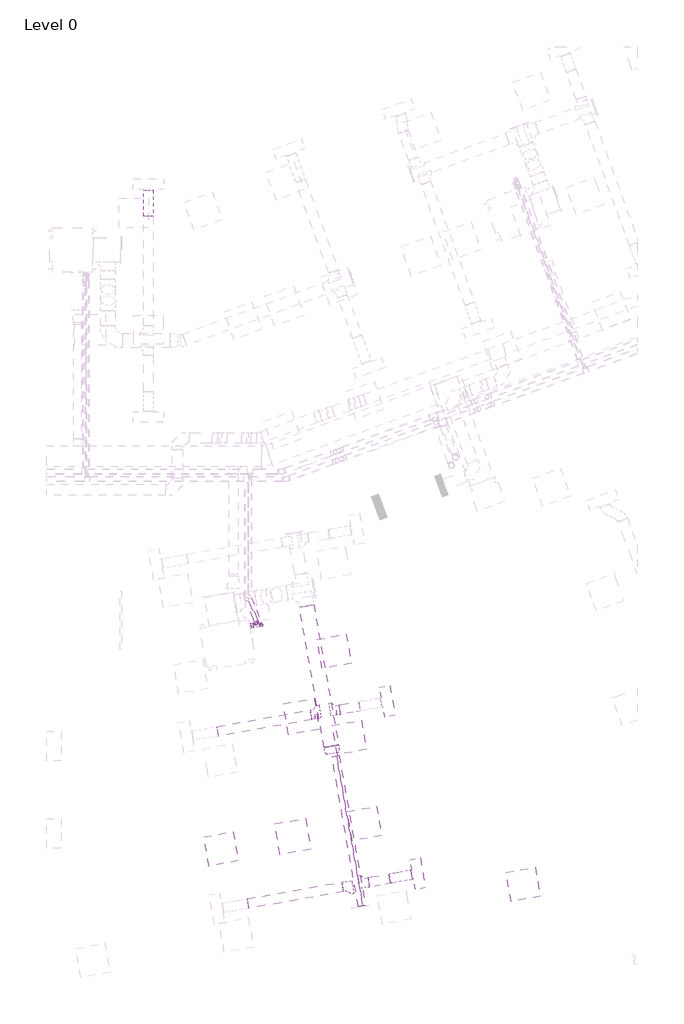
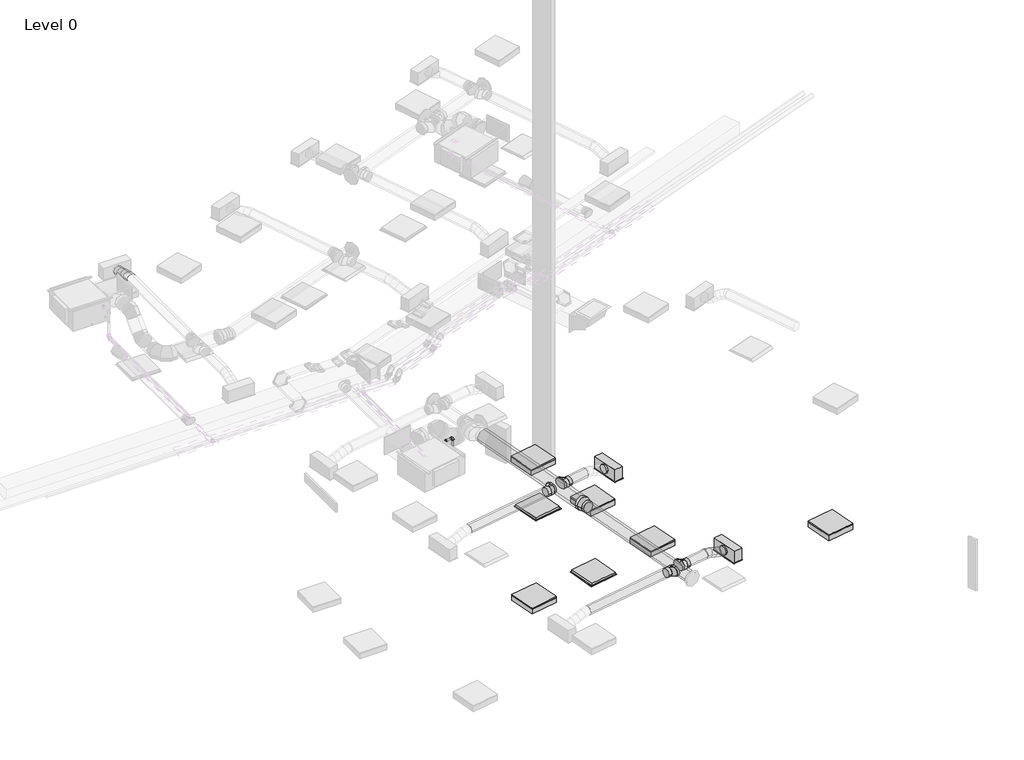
# One storey, part 18 of 34: 8 duct segments, 6 pipe fittings, 6 pipe segments, 5 duct fittings, 5 light fixtures, 4 air terminals.
"""IFC4 building model written with IfcOpenShell, lengths in millimetres."""

from ifc_helpers import new_model, si_unit, point, frame, frame_2d, origin, place, context, project, spatial, circle_curve, ellipse_curve, trimmed, segment, composite_curve, outline, extrude, transform, mapped, element, save
from ifc_brep_helpers import plane_surface, cylinder_surface, advanced_brep
from components import return_grille_rectangular_hosted_standard_7b12617c, supply_diffuser_with_plenum_linear_slot_hosted_7a86b773, dw144_round_shoe_branch_slip_joint1_standard_2_15a2edd8, dw144_round_shoe_branch_slip_joint1_standard_2_3a899113, dw144_round_taper_slip_joint_standard_7b2c0993, troffer_light_2x2_parabolic_2_x2_2_lamp_120v_6a063ff3, elbow_threaded_gmi_standard_b4aa7741, socket_reducing_threaded_gmi_standard_7a3748ab

model = new_model("IFC4")

# Units and contexts
model_context = context("Model", 3, world=origin())
ifc_project = project(units=[si_unit("LENGTHUNIT", "METRE", prefix="MILLI")], contexts=[model_context])

# Site, building, storey
site = spatial("IfcSite", under=ifc_project)
building = spatial("IfcBuilding", under=site)
storey = spatial("IfcBuildingStorey", under=building, Name="Level 0", Elevation=0.0)

# Air terminals
placement = place(None, origin())
return_grille_rectangular_hosted_standard_shape = return_grille_rectangular_hosted_standard_7b12617c(model_context)
element("IfcAirTerminal", 1, ObjectType="Return Grille - Rectangular - Hosted : Standard", at=placement, inside=storey, context=model_context, shape_type="MappedRepresentation", body=[
    mapped(return_grille_rectangular_hosted_standard_shape, transform((33736.3792363, 1334.082517, 2800.0), x_axis=(0.9848077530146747, 0.17364817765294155, 0.0), y_axis=(0.17364817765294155, -0.9848077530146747, 0.0), z_axis=(0.0, 0.0, -1.0))),
])
element("IfcAirTerminal", 2, ObjectType="Return Grille - Rectangular - Hosted : Standard", at=placement, inside=storey, context=model_context, shape_type="MappedRepresentation", body=[
    mapped(return_grille_rectangular_hosted_standard_shape, transform((33910.5082617, 3801.8100308, 2800.0), x_axis=(0.9848077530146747, 0.17364817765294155, 0.0), y_axis=(0.17364817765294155, -0.9848077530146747, 0.0), z_axis=(0.0, 0.0, -1.0))),
])
supply_diffuser_with_plenum_linear_slot_hosted_shape = supply_diffuser_with_plenum_linear_slot_hosted_7a86b773(model_context)
element("IfcAirTerminal", 3, ObjectType="Supply Diffuser with Plenum - Linear Slot - Hosted : 24\" x 8\"-200 In Inlet  4-Slot", at=placement, inside=storey, context=model_context, shape_type="MappedRepresentation", body=[
    mapped(supply_diffuser_with_plenum_linear_slot_hosted_shape, transform((35683.1622171, 4114.3767506, 2800.0), x_axis=(0.1736481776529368, -0.9848077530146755, 0.0), y_axis=(-0.9848077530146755, -0.1736481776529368, 0.0), z_axis=(0.0, 0.0, -1.0))),
])
element("IfcAirTerminal", 4, ObjectType="Supply Diffuser with Plenum - Linear Slot - Hosted : 24\" x 8\"-200 In Inlet  4-Slot", at=placement, inside=storey, context=model_context, shape_type="MappedRepresentation", body=[
    mapped(supply_diffuser_with_plenum_linear_slot_hosted_shape, transform((36308.2956567, 569.0688397, 2800.0), x_axis=(0.1736481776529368, -0.9848077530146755, 0.0), y_axis=(-0.9848077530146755, -0.1736481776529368, 0.0), z_axis=(0.0, 0.0, -1.0))),
])

# Duct fittings
dw144_round_shoe_branch_slip_joint1_standard_2_shape = dw144_round_shoe_branch_slip_joint1_standard_2_15a2edd8(model_context)
element("IfcDuctFitting", 5, ObjectType="DW144 Round Shoe Branch - Slip Joint1 : Standard 2", at=placement, inside=storey, context=model_context, shape_type="MappedRepresentation", body=[
    mapped(dw144_round_shoe_branch_slip_joint1_standard_2_shape, transform((35154.4321897, 365.6115785, 3072.2088531), x_axis=(0.9848077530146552, 0.17364817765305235, 0.0), y_axis=(0.17364817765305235, -0.9848077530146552, 0.0), z_axis=(0.0, 0.0, -1.0))),
])
element("IfcDuctFitting", 6, ObjectType="DW144 Round Shoe Branch - Slip Joint1 : Standard 2", at=placement, inside=storey, context=model_context, shape_type="MappedRepresentation", body=[
    mapped(dw144_round_shoe_branch_slip_joint1_standard_2_shape, transform((34908.2302515, 322.1995341, 3072.2088531), x_axis=(-0.9848077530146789, -0.17364817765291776, 0.0), y_axis=(-0.17364817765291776, 0.9848077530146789, 0.0), z_axis=(0.0, 0.0, -1.0))),
])
dw144_round_shoe_branch_slip_joint1_standard_2_2_shape = dw144_round_shoe_branch_slip_joint1_standard_2_3a899113(model_context)
element("IfcDuctFitting", 7, ObjectType="DW144 Round Shoe Branch - Slip Joint1 : Standard 2", at=placement, inside=storey, context=model_context, shape_type="MappedRepresentation", body=[
    mapped(dw144_round_shoe_branch_slip_joint1_standard_2_2_shape, transform((34258.4766181, 3863.1662405, 3072.2088531), x_axis=(-0.9848077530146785, -0.17364817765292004, 0.0), y_axis=(0.17364817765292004, -0.9848077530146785, 0.0), z_axis=(0.0, 0.0, 1.0))),
])
element("IfcDuctFitting", 8, ObjectType="DW144 Round Shoe Branch - Slip Joint1 : Standard 2", at=placement, inside=storey, context=model_context, shape_type="MappedRepresentation", body=[
    mapped(dw144_round_shoe_branch_slip_joint1_standard_2_2_shape, transform((34553.918944, 3915.2606938, 3072.2088531), x_axis=(0.9848077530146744, 0.17364817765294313, 0.0), y_axis=(0.17364817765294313, -0.9848077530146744, 0.0), z_axis=(0.0, 0.0, -1.0))),
])
dw144_round_taper_slip_joint_standard_shape = dw144_round_taper_slip_joint_standard_7b2c0993(model_context)
element("IfcDuctFitting", 9, ObjectType="DW144 Round Taper - Slip Joint : Standard", at=placement, inside=storey, context=model_context, shape_type="MappedRepresentation", body=[
    mapped(dw144_round_taper_slip_joint_standard_shape, transform((34529.2296476, 3191.465079, 3072.2088531), x_axis=(0.17364817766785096, -0.9848077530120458, 0.0), y_axis=(0.9848077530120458, 0.17364817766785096, 0.0), z_axis=(0.0, 0.0, 1.0))),
])

# Duct segments
element("IfcDuctSegment", 10, ObjectType="DW144 Segmented Bend / Shoe Branch", at=placement, inside=storey, context=model_context, shape_type="SweptSolid", body=[
    extrude(outline(composite_curve([segment(trimmed(circle_curve(frame_2d((0.0, -125.0)), 125.0), [point((-125.0, -125.0))], [point((0.0, 0.0))], False, "CARTESIAN"), True, "CONTINUOUS"), segment(trimmed(circle_curve(frame_2d((0.0, -125.0)), 125.0), [point((0.0, 0.0))], [point((125.0, -125.0))], False, "CARTESIAN"), True, "CONTINUOUS"), segment(trimmed(circle_curve(frame_2d((0.0, -125.0)), 125.0), [point((125.0, -125.0))], [point((0.0, -250.0))], False, "CARTESIAN"), True, "CONTINUOUS"), segment(trimmed(circle_curve(frame_2d((0.0, -125.0)), 125.0), [point((0.0, -250.0))], [point((-125.0, -125.0))], False, "CARTESIAN"), True, "CONTINUOUS")], self_intersect=False)), frame((35110.8297064, -106.9527609, 2947.2088531), z_axis=(-0.17364817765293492, 0.9848077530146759, 0.0), x_axis=(0.9848077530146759, 0.17364817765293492, 0.0)), (0.0, 0.0, 1.0), 3135.9999815),
])
element("IfcDuctSegment", 11, ObjectType="DW144 Segmented Bend / Shoe Branch", at=placement, inside=storey, context=model_context, shape_type="SweptSolid", body=[
    extrude(outline(composite_curve([segment(trimmed(circle_curve(frame_2d((0.0, 100.0)), 100.0), [point((100.0, 100.0))], [point((0.0, 0.0))], False, "CARTESIAN"), True, "CONTINUOUS"), segment(trimmed(circle_curve(frame_2d((0.0, 100.0)), 100.0), [point((0.0, 0.0))], [point((-100.0, 100.0))], False, "CARTESIAN"), True, "CONTINUOUS"), segment(trimmed(circle_curve(frame_2d((0.0, 100.0)), 100.0), [point((-100.0, 100.0))], [point((0.0, 200.0))], False, "CARTESIAN"), True, "CONTINUOUS"), segment(trimmed(circle_curve(frame_2d((0.0, 100.0)), 100.0), [point((0.0, 200.0))], [point((100.0, 100.0))], False, "CARTESIAN"), True, "CONTINUOUS")], self_intersect=False)), frame((34701.640107, 3941.3079204, 3172.2088531), z_axis=(0.9848077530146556, 0.1736481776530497, 0.0), x_axis=(0.1736481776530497, -0.9848077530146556, 0.0)), (0.0, 0.0, 1.0), 410.0),
])
element("IfcDuctSegment", 12, ObjectType="DW144 Segmented Bend / Shoe Branch", at=placement, inside=storey, context=model_context, shape_type="SweptSolid", body=[
    extrude(outline(composite_curve([segment(trimmed(circle_curve(frame_2d((0.0, -100.0)), 100.0), [point((-100.0, -100.0))], [point((0.0, 0.0))], False, "CARTESIAN"), True, "CONTINUOUS"), segment(trimmed(circle_curve(frame_2d((0.0, -100.0)), 100.0), [point((0.0, 0.0))], [point((100.0, -100.0))], False, "CARTESIAN"), True, "CONTINUOUS"), segment(trimmed(circle_curve(frame_2d((0.0, -100.0)), 100.0), [point((100.0, -100.0))], [point((0.0, -200.0))], False, "CARTESIAN"), True, "CONTINUOUS"), segment(trimmed(circle_curve(frame_2d((0.0, -100.0)), 100.0), [point((0.0, -200.0))], [point((-100.0, -100.0))], False, "CARTESIAN"), True, "CONTINUOUS")], self_intersect=False)), frame((32190.3803368, 3498.5050674, 2972.2088531), z_axis=(0.9848077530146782, 0.17364817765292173, 0.0), x_axis=(0.17364817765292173, -0.9848077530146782, 0.0)), (0.0, 0.0, 1.0), 1950.0),
])
element("IfcDuctSegment", 13, ObjectType="DW144 Segmented Bend / Shoe Branch", at=placement, inside=storey, context=model_context, shape_type="SweptSolid", body=[
    extrude(outline(composite_curve([segment(trimmed(circle_curve(frame_2d((0.0, -150.0)), 150.0), [point((-150.0, -150.0))], [point((0.0, 0.0))], False, "CARTESIAN"), True, "CONTINUOUS"), segment(trimmed(circle_curve(frame_2d((0.0, -150.0)), 150.0), [point((0.0, 0.0))], [point((150.0, -150.0))], False, "CARTESIAN"), True, "CONTINUOUS"), segment(trimmed(circle_curve(frame_2d((0.0, -150.0)), 150.0), [point((150.0, -150.0))], [point((0.0, -300.0))], False, "CARTESIAN"), True, "CONTINUOUS"), segment(trimmed(circle_curve(frame_2d((0.0, -150.0)), 150.0), [point((0.0, -300.0))], [point((-150.0, -150.0))], False, "CARTESIAN"), True, "CONTINUOUS")], self_intersect=False)), frame((34529.2296476, 3191.465079, 2922.2088531), z_axis=(-0.17364817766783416, 0.9848077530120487, 0.0), x_axis=(0.9848077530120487, 0.17364817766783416, 0.0)), (0.0, 0.0, 1.0), 2934.6959585),
])
element("IfcDuctSegment", 14, ObjectType="DW144 Segmented Bend / Shoe Branch", at=placement, inside=storey, context=model_context, shape_type="SweptSolid", body=[
    extrude(outline(composite_curve([segment(trimmed(circle_curve(frame_2d((0.0, -100.0)), 100.0), [point((-100.0, -100.0))], [point((0.0, 0.0))], False, "CARTESIAN"), True, "CONTINUOUS"), segment(trimmed(circle_curve(frame_2d((0.0, -100.0)), 100.0), [point((0.0, 0.0))], [point((100.0, -100.0))], False, "CARTESIAN"), True, "CONTINUOUS"), segment(trimmed(circle_curve(frame_2d((0.0, -100.0)), 100.0), [point((100.0, -100.0))], [point((0.0, -200.0))], False, "CARTESIAN"), True, "CONTINUOUS"), segment(trimmed(circle_curve(frame_2d((0.0, -100.0)), 100.0), [point((0.0, -200.0))], [point((-100.0, -100.0))], False, "CARTESIAN"), True, "CONTINUOUS")], self_intersect=False)), frame((35302.1533527, 391.6588051, 2972.2088531), z_axis=(0.9848077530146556, 0.17364817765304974, 0.0), x_axis=(0.17364817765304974, -0.9848077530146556, 0.0)), (0.0, 0.0, 1.0), 435.0),
])
element("IfcDuctSegment", 15, ObjectType="DW144 Segmented Bend / Shoe Branch", at=placement, inside=storey, context=model_context, shape_type="SweptSolid", body=[
    extrude(outline(composite_curve([segment(trimmed(circle_curve(frame_2d((0.0, 100.0)), 100.0), [point((100.0, 100.0))], [point((0.0, 0.0))], False, "CARTESIAN"), True, "CONTINUOUS"), segment(trimmed(circle_curve(frame_2d((0.0, 100.0)), 100.0), [point((0.0, 0.0))], [point((-100.0, 100.0))], False, "CARTESIAN"), True, "CONTINUOUS"), segment(trimmed(circle_curve(frame_2d((0.0, 100.0)), 100.0), [point((-100.0, 100.0))], [point((0.0, 200.0))], False, "CARTESIAN"), True, "CONTINUOUS"), segment(trimmed(circle_curve(frame_2d((0.0, 100.0)), 100.0), [point((0.0, 200.0))], [point((100.0, 100.0))], False, "CARTESIAN"), True, "CONTINUOUS")], self_intersect=False)), frame((32815.5137763, -46.8028435, 3172.2088531), z_axis=(0.9848077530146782, 0.17364817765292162, 0.0), x_axis=(0.17364817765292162, -0.9848077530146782, 0.0)), (0.0, 0.0, 1.0), 1975.0),
])
element("IfcDuctSegment", 16, ObjectType="Flex - Round", at=placement, inside=storey, context=model_context, shape_type="AdvancedBrep", body=[
    advanced_brep(
    [(30662.2000027, 14100.4916128, 3072.2088531), (30762.2000027, 14100.4916128, 2972.2088531), (30862.2000027, 14100.4916128, 3072.2088531), (30762.2000027, 14100.4916128, 3172.2088531), (30662.2000027, 14113.9893992, 3072.2088531), (30762.2000027, 14106.4651408, 2972.2088531), (30862.2000027, 14113.9893992, 3072.2088531), (30762.2000027, 14121.5136576, 3172.2088531), (30662.2000027, 14636.2000004, 2954.4), (30762.2000027, 14636.2000004, 3054.4), (30862.2000027, 14636.2000004, 2954.4), (30762.2000027, 14636.2000004, 2854.4), (30662.2000027, 14235.618791, 3053.8012198), (30762.2000027, 14213.4273542, 2956.0209797), (30862.2000027, 14235.618791, 3053.8012198), (30762.2000027, 14257.8102277, 3151.58146), (30662.2000027, 14368.3458066, 3013.3044266), (30762.2000027, 14339.1626335, 2917.657459), (30862.2000027, 14368.3458066, 3013.3044266), (30762.2000027, 14397.5289797, 3108.9513941), (30662.2000027, 14501.0728222, 2972.8076333), (30762.2000027, 14478.8813855, 2875.0273932), (30862.2000027, 14501.0728222, 2972.8076333), (30762.2000027, 14523.264259, 3070.5878734), (30662.2000027, 14622.702214, 2954.4), (30762.2000027, 14615.1779556, 2854.4), (30862.2000027, 14622.702214, 2954.4), (30762.2000027, 14630.2264724, 3054.4)],
    [
        (0, 1, circle_curve(frame((30762.2000027, 14100.4916128, 3072.2088531), z_axis=(0.0, -1.0, 0.0), x_axis=(-1.0, 0.0, 0.0)), 100.0)),
        (1, 2, circle_curve(frame((30762.2000027, 14100.4916128, 3072.2088531), z_axis=(0.0, -1.0, 0.0), x_axis=(-1.0, 0.0, 0.0)), 100.0)),
        (2, 3, circle_curve(frame((30762.2000027, 14100.4916128, 3072.2088531), z_axis=(0.0, -1.0, 0.0), x_axis=(-1.0, 0.0, 0.0)), 100.0)),
        (3, 0, circle_curve(frame((30762.2000027, 14100.4916128, 3072.2088531), z_axis=(0.0, -1.0, 0.0), x_axis=(-1.0, 0.0, 0.0)), 100.0)),
        (0, 4),
        (4, 5, ellipse_curve(frame((30762.2000027, 14113.9893992, 3072.2088531), z_axis=(0.0, -0.9971812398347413, 0.07503049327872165), x_axis=(0.0, -0.07503049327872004, -0.9971812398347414)), 100.2826728, 100.0)),
        (5, 1),
        (5, 6, ellipse_curve(frame((30762.2000027, 14113.9893992, 3072.2088531), z_axis=(0.0, -0.9971812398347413, 0.07503049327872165), x_axis=(0.0, -0.07503049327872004, -0.9971812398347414)), 100.2826728, 100.0)),
        (6, 2),
        (6, 7, ellipse_curve(frame((30762.2000027, 14113.9893992, 3072.2088531), z_axis=(0.0, -0.9971812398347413, 0.07503049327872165), x_axis=(0.0, -0.07503049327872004, -0.9971812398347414)), 100.2826728, 100.0)),
        (7, 3),
        (7, 4, ellipse_curve(frame((30762.2000027, 14113.9893992, 3072.2088531), z_axis=(0.0, -0.9971812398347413, 0.07503049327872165), x_axis=(0.0, -0.07503049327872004, -0.9971812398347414)), 100.2826728, 100.0)),
        (8, 9, circle_curve(frame((30762.2000027, 14636.2000004, 2954.4), z_axis=(0.0, 1.0, 0.0), x_axis=(-1.0, 0.0, 0.0)), 100.0)),
        (9, 10, circle_curve(frame((30762.2000027, 14636.2000004, 2954.4), z_axis=(0.0, 1.0, 0.0), x_axis=(-1.0, 0.0, 0.0)), 100.0)),
        (10, 11, circle_curve(frame((30762.2000027, 14636.2000004, 2954.4), z_axis=(0.0, 1.0, 0.0), x_axis=(-1.0, 0.0, 0.0)), 100.0)),
        (11, 8, circle_curve(frame((30762.2000027, 14636.2000004, 2954.4), z_axis=(0.0, 1.0, 0.0), x_axis=(-1.0, 0.0, 0.0)), 100.0)),
        (4, 12),
        (12, 13, ellipse_curve(frame((30762.2000027, 14235.618791, 3053.8012198), z_axis=(0.0, -0.9752003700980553, 0.22132383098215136), x_axis=(0.0, -0.22132383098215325, -0.975200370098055)), 100.2668202, 100.0)),
        (13, 5),
        (13, 14, ellipse_curve(frame((30762.2000027, 14235.618791, 3053.8012198), z_axis=(0.0, -0.9752003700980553, 0.22132383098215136), x_axis=(0.0, -0.22132383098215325, -0.975200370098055)), 100.2668202, 100.0)),
        (14, 6),
        (14, 15, ellipse_curve(frame((30762.2000027, 14235.618791, 3053.8012198), z_axis=(0.0, -0.9752003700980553, 0.22132383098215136), x_axis=(0.0, -0.22132383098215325, -0.975200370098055)), 100.2668202, 100.0)),
        (15, 7),
        (15, 12, ellipse_curve(frame((30762.2000027, 14235.618791, 3053.8012198), z_axis=(0.0, -0.9752003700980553, 0.22132383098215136), x_axis=(0.0, -0.22132383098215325, -0.975200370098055)), 100.2668202, 100.0)),
        (12, 16),
        (16, 17, circle_curve(frame((30762.2000027, 14368.3458066, 3013.3044266), z_axis=(0.0, -0.9564696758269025, 0.29183173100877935), x_axis=(-1.0, 0.0, 0.0)), 100.0)),
        (17, 13),
        (17, 18, circle_curve(frame((30762.2000027, 14368.3458066, 3013.3044266), z_axis=(0.0, -0.9564696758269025, 0.29183173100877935), x_axis=(-1.0, 0.0, 0.0)), 100.0)),
        (18, 14),
        (18, 19, circle_curve(frame((30762.2000027, 14368.3458066, 3013.3044266), z_axis=(0.0, -0.9564696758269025, 0.29183173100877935), x_axis=(-1.0, 0.0, 0.0)), 100.0)),
        (19, 15),
        (19, 16, circle_curve(frame((30762.2000027, 14368.3458066, 3013.3044266), z_axis=(0.0, -0.9564696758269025, 0.29183173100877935), x_axis=(-1.0, 0.0, 0.0)), 100.0)),
        (16, 20),
        (20, 21, ellipse_curve(frame((30762.2000027, 14501.0728222, 2972.8076333), z_axis=(0.0, -0.9752003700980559, 0.22132383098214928), x_axis=(0.0, 0.2213238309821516, 0.9752003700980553)), 100.2668202, 100.0)),
        (21, 17),
        (21, 22, ellipse_curve(frame((30762.2000027, 14501.0728222, 2972.8076333), z_axis=(0.0, -0.9752003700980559, 0.22132383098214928), x_axis=(0.0, 0.2213238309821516, 0.9752003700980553)), 100.2668202, 100.0)),
        (22, 18),
        (22, 23, ellipse_curve(frame((30762.2000027, 14501.0728222, 2972.8076333), z_axis=(0.0, -0.9752003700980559, 0.22132383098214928), x_axis=(0.0, 0.2213238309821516, 0.9752003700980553)), 100.2668202, 100.0)),
        (23, 19),
        (23, 20, ellipse_curve(frame((30762.2000027, 14501.0728222, 2972.8076333), z_axis=(0.0, -0.9752003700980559, 0.22132383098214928), x_axis=(0.0, 0.2213238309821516, 0.9752003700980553)), 100.2668202, 100.0)),
        (20, 24),
        (24, 25, ellipse_curve(frame((30762.2000027, 14622.702214, 2954.4), z_axis=(0.0, -0.9971812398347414, 0.0750304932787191), x_axis=(0.0, 0.07503049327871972, 0.9971812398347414)), 100.2826728, 100.0)),
        (25, 21),
        (25, 26, ellipse_curve(frame((30762.2000027, 14622.702214, 2954.4), z_axis=(0.0, -0.9971812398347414, 0.0750304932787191), x_axis=(0.0, 0.07503049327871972, 0.9971812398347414)), 100.2826728, 100.0)),
        (26, 22),
        (26, 27, ellipse_curve(frame((30762.2000027, 14622.702214, 2954.4), z_axis=(0.0, -0.9971812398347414, 0.0750304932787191), x_axis=(0.0, 0.07503049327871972, 0.9971812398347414)), 100.2826728, 100.0)),
        (27, 23),
        (27, 24, ellipse_curve(frame((30762.2000027, 14622.702214, 2954.4), z_axis=(0.0, -0.9971812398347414, 0.0750304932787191), x_axis=(0.0, 0.07503049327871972, 0.9971812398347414)), 100.2826728, 100.0)),
        (24, 8),
        (11, 25),
        (10, 26),
        (9, 27),
    ],
    [
        plane_surface(frame((30662.2000027, 14100.4916128, 3072.2088531), z_axis=(0.0, -1.0, 0.0), x_axis=(0.0, 0.0, 1.0))),
        cylinder_surface(frame((30762.2000027, 14100.4916128, 3072.2088531), z_axis=(0.0, -1.0, 0.0), x_axis=(-1.0, 0.0, 0.0)), 100.0),
        plane_surface(frame((30662.2000027, 14636.2000004, 2954.4), z_axis=(0.0, 1.0, 0.0), x_axis=(0.0, 0.0, 1.0))),
        cylinder_surface(frame((30762.2000027, 14113.9893992, 3072.2088531), z_axis=(0.0, -0.9887408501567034, 0.14963800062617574), x_axis=(-1.0, 0.0, 0.0)), 100.0),
        cylinder_surface(frame((30762.2000027, 14235.618791, 3053.8012198), z_axis=(0.0, -0.9564696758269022, 0.2918317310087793), x_axis=(-1.0, 0.0, 0.0)), 100.0),
        cylinder_surface(frame((30762.2000027, 14368.3458066, 3013.3044266), z_axis=(0.0, -0.956469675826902, 0.2918317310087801), x_axis=(-1.0, 0.0, 0.0)), 100.0),
        cylinder_surface(frame((30762.2000027, 14501.0728222, 2972.8076333), z_axis=(0.0, -0.9887408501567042, 0.14963800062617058), x_axis=(-1.0, 0.0, 0.0)), 100.0),
        cylinder_surface(frame((30762.2000027, 14622.702214, 2954.4), z_axis=(0.0, -1.0, 0.0), x_axis=(-1.0, 0.0, 0.0)), 100.0),
    ],
    [
        (0, [[1, 2, 3, 4]]),
        (1, [[-1, 5, 6, 7]]),
        (1, [[-2, -7, 8, 9]]),
        (1, [[-3, -9, 10, 11]]),
        (1, [[-4, -11, 12, -5]]),
        (2, [[13, 14, 15, 16]]),
        (3, [[-6, 17, 18, 19]]),
        (3, [[-8, -19, 20, 21]]),
        (3, [[-10, -21, 22, 23]]),
        (3, [[-12, -23, 24, -17]]),
        (4, [[-18, 25, 26, 27]]),
        (4, [[-20, -27, 28, 29]]),
        (4, [[-22, -29, 30, 31]]),
        (4, [[-24, -31, 32, -25]]),
        (5, [[-26, 33, 34, 35]]),
        (5, [[-28, -35, 36, 37]]),
        (5, [[-30, -37, 38, 39]]),
        (5, [[-32, -39, 40, -33]]),
        (6, [[-34, 41, 42, 43]]),
        (6, [[-36, -43, 44, 45]]),
        (6, [[-38, -45, 46, 47]]),
        (6, [[-40, -47, 48, -41]]),
        (7, [[-42, 49, -16, 50]]),
        (7, [[-44, -50, -15, 51]]),
        (7, [[-46, -51, -14, 52]]),
        (7, [[-48, -52, -13, -49]]),
    ],
),
])
element("IfcDuctSegment", 17, ObjectType="Flex - Round", at=placement, inside=storey, context=model_context, shape_type="AdvancedBrep", body=[
    advanced_brep(
    [(35713.1799075, 565.6765377, 3072.2088531), (35730.5447252, 467.1957624, 2972.2088531), (35747.909543, 368.7149871, 3072.2088531), (35730.5447252, 467.1957624, 3172.2088531), (35728.5743865, 568.3909997, 3072.2088531), (35737.0101558, 468.3357922, 2972.2088531), (35763.304022, 371.4294491, 3072.2088531), (35754.8682527, 471.4846566, 3172.2088531), (36165.8602543, 645.4962965, 2954.4), (36183.2250721, 547.0155212, 3054.4), (36200.5898898, 448.5347459, 2954.4), (36183.2250721, 547.0155212, 2854.4), (35827.7216531, 585.8733379, 3053.8012198), (35819.5189856, 482.8843251, 2956.8903039), (35862.4512886, 388.9117873, 3053.8012198), (35870.6539561, 491.9008, 3150.7121357), (35939.5200809, 605.5864171, 3013.3044266), (35923.7964133, 501.2712491, 2919.1178458), (35974.2497164, 408.6248665, 3013.3044266), (35989.973384, 512.9400345, 3107.4910073), (36051.3185087, 625.2994963, 2972.8076333), (36043.1158412, 522.3104835, 2875.8967174), (36086.0481442, 428.3379457, 2972.8076333), (36094.2508117, 531.3269585, 3069.7185492), (36150.4657753, 642.7818345, 2954.4), (36158.9015446, 542.726627, 2854.4), (36185.1954108, 445.8202839, 2954.4), (36176.7596416, 545.8754913, 3054.4)],
    [
        (0, 1, circle_curve(frame((35730.5447252, 467.1957624, 3072.2088531), z_axis=(-0.9848077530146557, -0.1736481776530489, 0.0), x_axis=(-0.1736481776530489, 0.9848077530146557, 0.0)), 100.0)),
        (1, 2, circle_curve(frame((35730.5447252, 467.1957624, 3072.2088531), z_axis=(-0.9848077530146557, -0.1736481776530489, 0.0), x_axis=(-0.1736481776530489, 0.9848077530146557, 0.0)), 100.0)),
        (2, 3, circle_curve(frame((35730.5447252, 467.1957624, 3072.2088531), z_axis=(-0.9848077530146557, -0.1736481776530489, 0.0), x_axis=(-0.1736481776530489, 0.9848077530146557, 0.0)), 100.0)),
        (3, 0, circle_curve(frame((35730.5447252, 467.1957624, 3072.2088531), z_axis=(-0.9848077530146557, -0.1736481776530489, 0.0), x_axis=(-0.1736481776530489, 0.9848077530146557, 0.0)), 100.0)),
        (0, 4),
        (4, 5, ellipse_curve(frame((35745.9392042, 469.9102244, 3072.2088531), z_axis=(-0.9807846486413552, -0.17293879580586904, 0.09029754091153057), x_axis=(-0.08892571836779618, -0.015680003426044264, -0.9959148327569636)), 100.4101924, 100.0)),
        (5, 1),
        (5, 6, ellipse_curve(frame((35745.9392042, 469.9102244, 3072.2088531), z_axis=(-0.9807846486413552, -0.17293879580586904, 0.09029754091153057), x_axis=(-0.08892571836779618, -0.015680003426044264, -0.9959148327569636)), 100.4101924, 100.0)),
        (6, 2),
        (6, 7, ellipse_curve(frame((35745.9392042, 469.9102244, 3072.2088531), z_axis=(-0.9807846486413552, -0.17293879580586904, 0.09029754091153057), x_axis=(-0.08892571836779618, -0.015680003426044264, -0.9959148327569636)), 100.4101924, 100.0)),
        (7, 3),
        (7, 4, ellipse_curve(frame((35745.9392042, 469.9102244, 3072.2088531), z_axis=(-0.9807846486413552, -0.17293879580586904, 0.09029754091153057), x_axis=(-0.08892571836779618, -0.015680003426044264, -0.9959148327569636)), 100.4101924, 100.0)),
        (8, 9, circle_curve(frame((36183.2250721, 547.0155212, 2954.4), z_axis=(0.9848077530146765, 0.1736481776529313, 0.0), x_axis=(-0.1736481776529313, 0.9848077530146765, 0.0)), 100.0)),
        (9, 10, circle_curve(frame((36183.2250721, 547.0155212, 2954.4), z_axis=(0.9848077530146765, 0.1736481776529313, 0.0), x_axis=(-0.1736481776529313, 0.9848077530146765, 0.0)), 100.0)),
        (10, 11, circle_curve(frame((36183.2250721, 547.0155212, 2954.4), z_axis=(0.9848077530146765, 0.1736481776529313, 0.0), x_axis=(-0.1736481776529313, 0.9848077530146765, 0.0)), 100.0)),
        (11, 8, circle_curve(frame((36183.2250721, 547.0155212, 2954.4), z_axis=(0.9848077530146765, 0.1736481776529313, 0.0), x_axis=(-0.1736481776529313, 0.9848077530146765, 0.0)), 100.0)),
        (4, 12),
        (12, 13, ellipse_curve(frame((35845.0864709, 487.3925626, 3053.8012198), z_axis=(-0.9512642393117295, -0.16773355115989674, 0.2587697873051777), x_axis=(-0.25483849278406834, -0.04493490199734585, -0.9659390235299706)), 100.3281921, 100.0)),
        (13, 5),
        (13, 14, ellipse_curve(frame((35845.0864709, 487.3925626, 3053.8012198), z_axis=(-0.9512642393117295, -0.16773355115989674, 0.2587697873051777), x_axis=(-0.25483849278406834, -0.04493490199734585, -0.9659390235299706)), 100.3281921, 100.0)),
        (14, 6),
        (14, 15, ellipse_curve(frame((35845.0864709, 487.3925626, 3053.8012198), z_axis=(-0.9512642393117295, -0.16773355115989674, 0.2587697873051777), x_axis=(-0.25483849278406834, -0.04493490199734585, -0.9659390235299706)), 100.3281921, 100.0)),
        (15, 7),
        (15, 12, ellipse_curve(frame((35845.0864709, 487.3925626, 3053.8012198), z_axis=(-0.9512642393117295, -0.16773355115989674, 0.2587697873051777), x_axis=(-0.25483849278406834, -0.04493490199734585, -0.9659390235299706)), 100.3281921, 100.0)),
        (12, 16),
        (16, 17, circle_curve(frame((35956.8848987, 507.1056418, 3013.3044266), z_axis=(-0.9275567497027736, -0.16355328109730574, 0.3359892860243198), x_axis=(-0.1736481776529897, 0.9848077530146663, 0.0)), 100.0)),
        (17, 13),
        (17, 18, circle_curve(frame((35956.8848987, 507.1056418, 3013.3044266), z_axis=(-0.9275567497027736, -0.16355328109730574, 0.3359892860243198), x_axis=(-0.1736481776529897, 0.9848077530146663, 0.0)), 100.0)),
        (18, 14),
        (18, 19, circle_curve(frame((35956.8848987, 507.1056418, 3013.3044266), z_axis=(-0.9275567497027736, -0.16355328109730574, 0.3359892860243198), x_axis=(-0.1736481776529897, 0.9848077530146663, 0.0)), 100.0)),
        (19, 15),
        (19, 16, circle_curve(frame((35956.8848987, 507.1056418, 3013.3044266), z_axis=(-0.9275567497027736, -0.16355328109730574, 0.3359892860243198), x_axis=(-0.1736481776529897, 0.9848077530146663, 0.0)), 100.0)),
        (16, 20),
        (20, 21, ellipse_curve(frame((36068.6833264, 526.818721, 2972.8076333), z_axis=(-0.9512642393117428, -0.16773355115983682, 0.25876978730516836), x_axis=(0.2548384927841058, 0.04493490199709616, 0.9659390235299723)), 100.3281921, 100.0)),
        (21, 17),
        (21, 22, ellipse_curve(frame((36068.6833264, 526.818721, 2972.8076333), z_axis=(-0.9512642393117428, -0.16773355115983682, 0.25876978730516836), x_axis=(0.2548384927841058, 0.04493490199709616, 0.9659390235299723)), 100.3281921, 100.0)),
        (22, 18),
        (22, 23, ellipse_curve(frame((36068.6833264, 526.818721, 2972.8076333), z_axis=(-0.9512642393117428, -0.16773355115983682, 0.25876978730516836), x_axis=(0.2548384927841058, 0.04493490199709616, 0.9659390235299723)), 100.3281921, 100.0)),
        (23, 19),
        (23, 20, ellipse_curve(frame((36068.6833264, 526.818721, 2972.8076333), z_axis=(-0.9512642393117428, -0.16773355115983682, 0.25876978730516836), x_axis=(0.2548384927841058, 0.04493490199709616, 0.9659390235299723)), 100.3281921, 100.0)),
        (20, 24),
        (24, 25, ellipse_curve(frame((36167.8305931, 544.3010592, 2954.4), z_axis=(-0.9807846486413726, -0.17293879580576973, 0.09029754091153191), x_axis=(0.08892571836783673, 0.015680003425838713, 0.9959148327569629)), 100.4101924, 100.0)),
        (25, 21),
        (25, 26, ellipse_curve(frame((36167.8305931, 544.3010592, 2954.4), z_axis=(-0.9807846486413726, -0.17293879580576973, 0.09029754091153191), x_axis=(0.08892571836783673, 0.015680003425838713, 0.9959148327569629)), 100.4101924, 100.0)),
        (26, 22),
        (26, 27, ellipse_curve(frame((36167.8305931, 544.3010592, 2954.4), z_axis=(-0.9807846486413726, -0.17293879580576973, 0.09029754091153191), x_axis=(0.08892571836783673, 0.015680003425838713, 0.9959148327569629)), 100.4101924, 100.0)),
        (27, 23),
        (27, 24, ellipse_curve(frame((36167.8305931, 544.3010592, 2954.4), z_axis=(-0.9807846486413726, -0.17293879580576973, 0.09029754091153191), x_axis=(0.08892571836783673, 0.015680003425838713, 0.9959148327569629)), 100.4101924, 100.0)),
        (24, 8),
        (11, 25),
        (10, 26),
        (9, 27),
    ],
    [
        plane_surface(frame((35730.5447252, 467.1957624, 3172.2088531), z_axis=(-0.9848077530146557, -0.17364817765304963, 0.0), x_axis=(0.17364817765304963, -0.9848077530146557, 0.0))),
        cylinder_surface(frame((35730.5447252, 467.1957624, 3072.2088531), z_axis=(-0.9848077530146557, -0.1736481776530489, 0.0), x_axis=(-0.1736481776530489, 0.9848077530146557, 0.0)), 100.0),
        plane_surface(frame((36183.2250721, 547.0155212, 3054.4), z_axis=(0.9848077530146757, 0.17364817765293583, 0.0), x_axis=(0.17364817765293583, -0.9848077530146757, 0.0))),
        cylinder_surface(frame((35745.9392042, 469.9102244, 3072.2088531), z_axis=(-0.9687482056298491, -0.17081644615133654, 0.17985732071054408), x_axis=(-0.17364817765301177, 0.9848077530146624, 0.0)), 100.0),
        cylinder_surface(frame((35845.0864709, 487.3925626, 3053.8012198), z_axis=(-0.9275567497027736, -0.16355328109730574, 0.3359892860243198), x_axis=(-0.1736481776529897, 0.9848077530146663, 0.0)), 100.0),
        cylinder_surface(frame((35956.8848987, 507.1056418, 3013.3044266), z_axis=(-0.9275567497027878, -0.1635532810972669, 0.335989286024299), x_axis=(-0.17364817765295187, 0.9848077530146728, 0.0)), 100.0),
        cylinder_surface(frame((36068.6833264, 526.818721, 2972.8076333), z_axis=(-0.9687482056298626, -0.17081644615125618, 0.1798573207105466), x_axis=(-0.17364817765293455, 0.9848077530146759, 0.0)), 100.0),
        cylinder_surface(frame((36167.8305931, 544.3010592, 2954.4), z_axis=(-0.9848077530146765, -0.1736481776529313, 0.0), x_axis=(-0.1736481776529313, 0.9848077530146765, 0.0)), 100.0),
    ],
    [
        (0, [[1, 2, 3, 4]]),
        (1, [[-1, 5, 6, 7]]),
        (1, [[-2, -7, 8, 9]]),
        (1, [[-3, -9, 10, 11]]),
        (1, [[-4, -11, 12, -5]]),
        (2, [[13, 14, 15, 16]]),
        (3, [[-6, 17, 18, 19]]),
        (3, [[-8, -19, 20, 21]]),
        (3, [[-10, -21, 22, 23]]),
        (3, [[-12, -23, 24, -17]]),
        (4, [[-18, 25, 26, 27]]),
        (4, [[-20, -27, 28, 29]]),
        (4, [[-22, -29, 30, 31]]),
        (4, [[-24, -31, 32, -25]]),
        (5, [[-26, 33, 34, 35]]),
        (5, [[-28, -35, 36, 37]]),
        (5, [[-30, -37, 38, 39]]),
        (5, [[-32, -39, 40, -33]]),
        (6, [[-34, 41, 42, 43]]),
        (6, [[-36, -43, 44, 45]]),
        (6, [[-38, -45, 46, 47]]),
        (6, [[-40, -47, 48, -41]]),
        (7, [[-42, 49, -16, 50]]),
        (7, [[-44, -50, -15, 51]]),
        (7, [[-46, -51, -14, 52]]),
        (7, [[-48, -52, -13, -49]]),
    ],
),
])

# Light fixtures
troffer_light_2x2_parabolic_2_x2_2_lamp_120v_shape = troffer_light_2x2_parabolic_2_x2_2_lamp_120v_6a063ff3(model_context)
element("IfcLightFixture", 18, ObjectType="Troffer Light - 2x2 Parabolic : 2'x2'(2 Lamp) - 120V", at=placement, inside=storey, context=model_context, shape_type="MappedRepresentation", body=[
    mapped(troffer_light_2x2_parabolic_2_x2_2_lamp_120v_shape, transform((38532.6752979, 47.4030351, 2800.0), x_axis=(0.9848077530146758, 0.17364817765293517, 0.0), y_axis=(0.17364817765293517, -0.9848077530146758, 0.0), z_axis=(0.0, 0.0, -1.0))),
])
element("IfcLightFixture", 19, ObjectType="Troffer Light - 2x2 Parabolic : 2'x2'(2 Lamp) - 120V", at=placement, inside=storey, context=model_context, shape_type="MappedRepresentation", body=[
    mapped(troffer_light_2x2_parabolic_2_x2_2_lamp_120v_shape, transform((32311.2620601, 778.1679246, 2800.0), x_axis=(0.9848077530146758, 0.17364817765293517, 0.0), y_axis=(0.17364817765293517, -0.9848077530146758, 0.0), z_axis=(0.0, 0.0, -1.0))),
])
element("IfcLightFixture", 20, ObjectType="Troffer Light - 2x2 Parabolic : 2'x2'(2 Lamp) - 120V", at=placement, inside=storey, context=model_context, shape_type="MappedRepresentation", body=[
    mapped(troffer_light_2x2_parabolic_2_x2_2_lamp_120v_shape, transform((35265.6853191, 1299.1124575, 2800.0), x_axis=(0.9848077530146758, 0.17364817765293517, 0.0), y_axis=(0.17364817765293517, -0.9848077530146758, 0.0), z_axis=(0.0, 0.0, -1.0))),
])
element("IfcLightFixture", 21, ObjectType="Troffer Light - 2x2 Parabolic : 2'x2'(2 Lamp) - 120V", at=placement, inside=storey, context=model_context, shape_type="MappedRepresentation", body=[
    mapped(troffer_light_2x2_parabolic_2_x2_2_lamp_120v_shape, transform((34953.1185993, 3071.766413, 2800.0), x_axis=(0.9848077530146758, 0.17364817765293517, 0.0), y_axis=(0.17364817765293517, -0.9848077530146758, 0.0), z_axis=(0.0, 0.0, -1.0))),
])
element("IfcLightFixture", 22, ObjectType="Troffer Light - 2x2 Parabolic : 2'x2'(2 Lamp) - 120V", at=placement, inside=storey, context=model_context, shape_type="MappedRepresentation", body=[
    mapped(troffer_light_2x2_parabolic_2_x2_2_lamp_120v_shape, transform((34640.5518795, 4844.4203684, 2800.0), x_axis=(0.9848077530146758, 0.17364817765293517, 0.0), y_axis=(0.17364817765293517, -0.9848077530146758, 0.0), z_axis=(0.0, 0.0, -1.0))),
])

# Pipe fittings
elbow_threaded_gmi_standard_shape = elbow_threaded_gmi_standard_b4aa7741(model_context)
element("IfcPipeFitting", 23, ObjectType="Elbow - Threaded - GMI : Standard", at=placement, inside=storey, context=model_context, shape_type="MappedRepresentation", body=[
    mapped(elbow_threaded_gmi_standard_shape, transform((33091.3143524, 5683.2717682, 2893.9343179), x_axis=(0.38268343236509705, -0.9238795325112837, 0.0), y_axis=(0.0, 0.0, 1.0), z_axis=(-0.9238795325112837, -0.38268343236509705, 0.0))),
])
element("IfcPipeFitting", 24, ObjectType="Elbow - Threaded - GMI : Standard", at=placement, inside=storey, context=model_context, shape_type="MappedRepresentation", body=[
    mapped(elbow_threaded_gmi_standard_shape, transform((32989.6157295, 5716.923229, 2980.0), x_axis=(0.38268343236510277, -0.9238795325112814, 0.0), y_axis=(0.0, 0.0, 1.0), z_axis=(-0.9238795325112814, -0.38268343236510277, 0.0))),
])
element("IfcPipeFitting", 25, ObjectType="Elbow - Threaded - GMI : Standard", at=placement, inside=storey, context=model_context, shape_type="MappedRepresentation", body=[
    mapped(elbow_threaded_gmi_standard_shape, transform((33091.3143524, 5683.2717682, 3596.575), x_axis=(0.0, 0.0, 1.0), y_axis=(-0.9848077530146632, -0.17364817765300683, 0.0), z_axis=(0.17364817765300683, -0.9848077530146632, 0.0))),
])
element("IfcPipeFitting", 26, ObjectType="Elbow - Threaded - GMI : Standard", at=placement, inside=storey, context=model_context, shape_type="MappedRepresentation", body=[
    mapped(elbow_threaded_gmi_standard_shape, transform((32989.6157295, 5716.923229, 3317.175), x_axis=(0.0, 0.0, 1.0), y_axis=(-0.9848077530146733, -0.1736481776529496, 0.0), z_axis=(0.1736481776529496, -0.9848077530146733, 0.0))),
])
socket_reducing_threaded_gmi_standard_shape = socket_reducing_threaded_gmi_standard_7a3748ab(model_context)
element("IfcPipeFitting", 27, ObjectType="Socket Reducing - Threaded - GMI : Standard", at=placement, inside=storey, context=model_context, shape_type="MappedRepresentation", body=[
    mapped(socket_reducing_threaded_gmi_standard_shape, transform((32862.9230279, 5694.5838875, 3317.175), x_axis=(0.9848077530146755, 0.17364817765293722, 0.0), y_axis=(-0.17364817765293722, 0.9848077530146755, 0.0), z_axis=(0.0, 0.0, 1.0))),
])
element("IfcPipeFitting", 28, ObjectType="Socket Reducing - Threaded - GMI : Standard", at=placement, inside=storey, context=model_context, shape_type="MappedRepresentation", body=[
    mapped(socket_reducing_threaded_gmi_standard_shape, transform((32871.7443553, 5644.5556536, 3596.575), x_axis=(0.9848077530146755, 0.17364817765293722, 0.0), y_axis=(-0.17364817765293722, 0.9848077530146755, 0.0), z_axis=(0.0, 0.0, 1.0))),
])

# Pipe segments
element("IfcPipeSegment", 29, ObjectType="Carbon Steel - Threaded", at=placement, inside=storey, context=model_context, shape_type="SweptSolid", body=[
    extrude(outline(composite_curve([segment(trimmed(circle_curve(frame_2d((0.0, -21.45)), 21.45), [point((-21.45, -21.45))], [point((0.0, 0.0))], False, "CARTESIAN"), True, "CONTINUOUS"), segment(trimmed(circle_curve(frame_2d((0.0, -21.45)), 21.45), [point((0.0, 0.0))], [point((21.4499999, -21.45))], False, "CARTESIAN"), True, "CONTINUOUS"), segment(trimmed(circle_curve(frame_2d((0.0, -21.45)), 21.45), [point((21.4499999, -21.45))], [point((0.0, -42.9))], False, "CARTESIAN"), True, "CONTINUOUS"), segment(trimmed(circle_curve(frame_2d((0.0, -21.45)), 21.45), [point((0.0, -42.9))], [point((-21.45, -21.45))], False, "CARTESIAN"), True, "CONTINUOUS")], self_intersect=False)), frame((32972.3949751, 5758.497808, 2958.55), z_axis=(-0.38268343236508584, 0.9238795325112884, 0.0), x_axis=(0.9238795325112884, 0.38268343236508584, 0.0)), (0.0, 0.0, 1.0), 461.7276046),
])
element("IfcPipeSegment", 30, ObjectType="Carbon Steel - Threaded", at=placement, inside=storey, context=model_context, shape_type="SweptSolid", body=[
    extrude(outline(composite_curve([segment(trimmed(circle_curve(frame_2d((0.0, -21.45)), 21.45), [point((-21.45, -21.45))], [point((0.0, 0.0))], False, "CARTESIAN"), True, "CONTINUOUS"), segment(trimmed(circle_curve(frame_2d((0.0, -21.45)), 21.45), [point((0.0, 0.0))], [point((21.45, -21.45))], False, "CARTESIAN"), True, "CONTINUOUS"), segment(trimmed(circle_curve(frame_2d((0.0, -21.45)), 21.45), [point((21.45, -21.45))], [point((0.0, -42.9))], False, "CARTESIAN"), True, "CONTINUOUS"), segment(trimmed(circle_curve(frame_2d((0.0, -21.45)), 21.45), [point((0.0, -42.9))], [point((-21.45, -21.45))], False, "CARTESIAN"), True, "CONTINUOUS")], self_intersect=False)), frame((33074.0935979, 5724.8463472, 2872.4843179), z_axis=(-0.38268343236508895, 0.9238795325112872, 0.0), x_axis=(0.9238795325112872, 0.38268343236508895, 0.0)), (0.0, 0.0, 1.0), 545.7373627),
])
element("IfcPipeSegment", 31, ObjectType="Carbon Steel - Threaded", at=placement, inside=storey, context=model_context, shape_type="SweptSolid", body=[
    extrude(outline(composite_curve([segment(trimmed(circle_curve(frame_2d((33091.3143524, 5683.2717682)), 21.45), [point((33069.8643524, 5683.2717682))], [point((33091.3143524, 5704.7217682))], False, "CARTESIAN"), True, "CONTINUOUS"), segment(trimmed(circle_curve(frame_2d((33091.3143524, 5683.2717682)), 21.45), [point((33091.3143524, 5704.7217682))], [point((33112.7643524, 5683.2717682))], False, "CARTESIAN"), True, "CONTINUOUS"), segment(trimmed(circle_curve(frame_2d((33091.3143524, 5683.2717682)), 21.45), [point((33112.7643524, 5683.2717682))], [point((33091.3143524, 5661.8217682))], False, "CARTESIAN"), True, "CONTINUOUS"), segment(trimmed(circle_curve(frame_2d((33091.3143524, 5683.2717682)), 21.45), [point((33091.3143524, 5661.8217682))], [point((33069.8643524, 5683.2717682))], False, "CARTESIAN"), True, "CONTINUOUS")], self_intersect=False)), frame((0.0, 0.0, 2938.9343179), z_axis=(0.0, 0.0, 1.0), x_axis=(1.0, 0.0, 0.0)), (0.0, 0.0, 1.0), 612.6406821),
])
element("IfcPipeSegment", 32, ObjectType="Carbon Steel - Threaded", at=placement, inside=storey, context=model_context, shape_type="SweptSolid", body=[
    extrude(outline(composite_curve([segment(trimmed(circle_curve(frame_2d((32989.6157295, 5716.923229)), 21.45), [point((32968.1657295, 5716.923229))], [point((32989.6157295, 5738.373229))], False, "CARTESIAN"), True, "CONTINUOUS"), segment(trimmed(circle_curve(frame_2d((32989.6157295, 5716.923229)), 21.45), [point((32989.6157295, 5738.373229))], [point((33011.0657295, 5716.923229))], False, "CARTESIAN"), True, "CONTINUOUS"), segment(trimmed(circle_curve(frame_2d((32989.6157295, 5716.923229)), 21.45), [point((33011.0657295, 5716.923229))], [point((32989.6157295, 5695.473229))], False, "CARTESIAN"), True, "CONTINUOUS"), segment(trimmed(circle_curve(frame_2d((32989.6157295, 5716.923229)), 21.45), [point((32989.6157295, 5695.473229))], [point((32968.1657295, 5716.923229))], False, "CARTESIAN"), True, "CONTINUOUS")], self_intersect=False)), frame((0.0, 0.0, 3025.0), z_axis=(0.0, 0.0, 1.0), x_axis=(1.0, 0.0, 0.0)), (0.0, 0.0, 1.0), 247.175),
])
element("IfcPipeSegment", 33, ObjectType="Carbon Steel - Threaded", at=placement, inside=storey, context=model_context, shape_type="SweptSolid", body=[
    extrude(outline(composite_curve([segment(trimmed(circle_curve(frame_2d((0.0, -21.45)), 21.45), [point((-21.45, -21.45))], [point((0.0, 0.0))], False, "CARTESIAN"), True, "CONTINUOUS"), segment(trimmed(circle_curve(frame_2d((0.0, -21.45)), 21.45), [point((0.0, 0.0))], [point((21.45, -21.45))], False, "CARTESIAN"), True, "CONTINUOUS"), segment(trimmed(circle_curve(frame_2d((0.0, -21.45)), 21.45), [point((21.45, -21.45))], [point((0.0, -42.9))], False, "CARTESIAN"), True, "CONTINUOUS"), segment(trimmed(circle_curve(frame_2d((0.0, -21.45)), 21.45), [point((0.0, -42.9))], [point((-21.45, -21.45))], False, "CARTESIAN"), True, "CONTINUOUS")], self_intersect=False)), frame((32921.0266853, 5704.8291299, 3295.725), z_axis=(0.9848077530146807, 0.17364817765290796, 0.0), x_axis=(0.17364817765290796, -0.9848077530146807, 0.0)), (0.0, 0.0, 1.0), 24.6471408),
])
element("IfcPipeSegment", 34, ObjectType="Carbon Steel - Threaded", at=placement, inside=storey, context=model_context, shape_type="SweptSolid", body=[
    extrude(outline(composite_curve([segment(trimmed(circle_curve(frame_2d((0.0, -21.45)), 21.45), [point((-21.45, -21.45))], [point((0.0, 0.0))], False, "CARTESIAN"), True, "CONTINUOUS"), segment(trimmed(circle_curve(frame_2d((0.0, -21.45)), 21.45), [point((0.0, 0.0))], [point((21.45, -21.45))], False, "CARTESIAN"), True, "CONTINUOUS"), segment(trimmed(circle_curve(frame_2d((0.0, -21.45)), 21.45), [point((21.45, -21.45))], [point((0.0, -42.9))], False, "CARTESIAN"), True, "CONTINUOUS"), segment(trimmed(circle_curve(frame_2d((0.0, -21.45)), 21.45), [point((0.0, -42.9))], [point((-21.45, -21.45))], False, "CARTESIAN"), True, "CONTINUOUS")], self_intersect=False)), frame((32929.8480127, 5654.8008961, 3575.125), z_axis=(0.9848077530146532, 0.17364817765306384, 0.0), x_axis=(0.17364817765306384, -0.9848077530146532, 0.0)), (0.0, 0.0, 1.0), 118.9572182),
])

save(model, "model.ifc")
